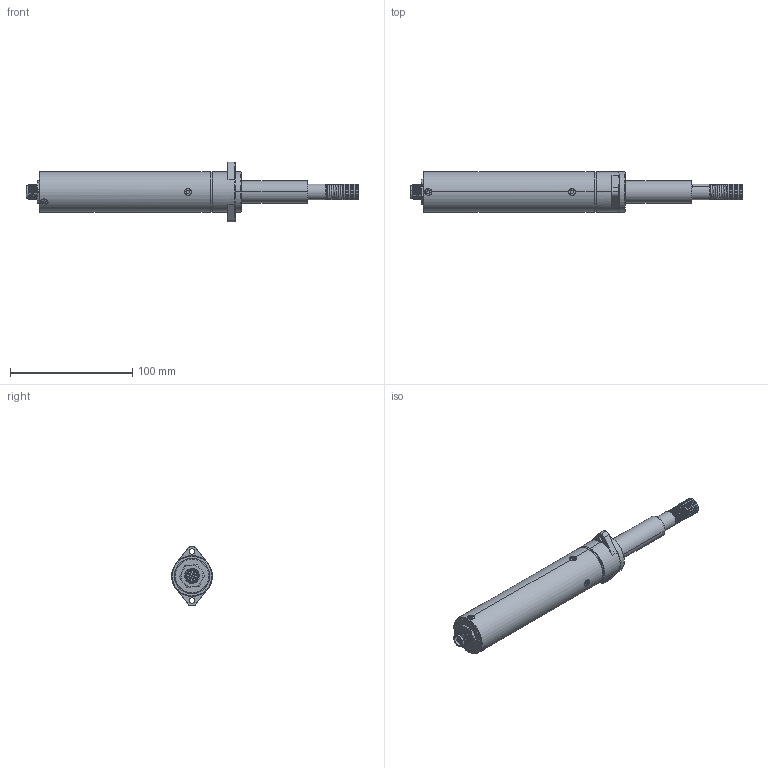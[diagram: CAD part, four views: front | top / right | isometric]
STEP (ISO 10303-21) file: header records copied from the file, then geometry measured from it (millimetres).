
FILE_DESCRIPTION (( 'STEP AP214' ), '1' );
FILE_NAME ('Mito 15CA_FN.STEP', '2014-02-28T08:27:29', ( '' ), ( '' ), 'SwSTEP 2.0', 'SolidWorks 2013', '' );
FILE_SCHEMA (( 'AUTOMOTIVE_DESIGN' ));
Length unit declared in the file: millimetre
Products named in the file (1): Mito 15CA_FN
Bounding box: 271.4 x 33.1 x 49 mm (x, y, z)
Volume: 64364.6 mm3; surface area: 59176.8 mm2
Topology: 23 solids, 23 shells, 775 faces, 1859 edges, 1141 vertices
Faces by surface type: cylinder 367, cone 164, plane 153, torus 54, bspline 32, sphere 5
Entity records: 44995 total; most frequent: CARTESIAN_POINT 18312, DIRECTION 3929, ORIENTED_EDGE 3638, EDGE_CURVE 1819, AXIS2_PLACEMENT_3D 1629, VERTEX_POINT 1132, CIRCLE 885, EDGE_LOOP 881
